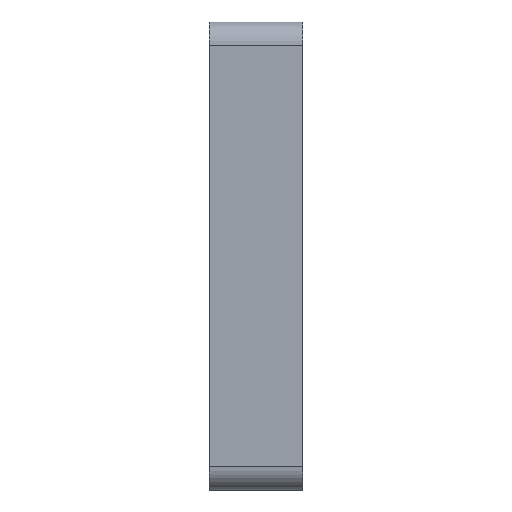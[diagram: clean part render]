
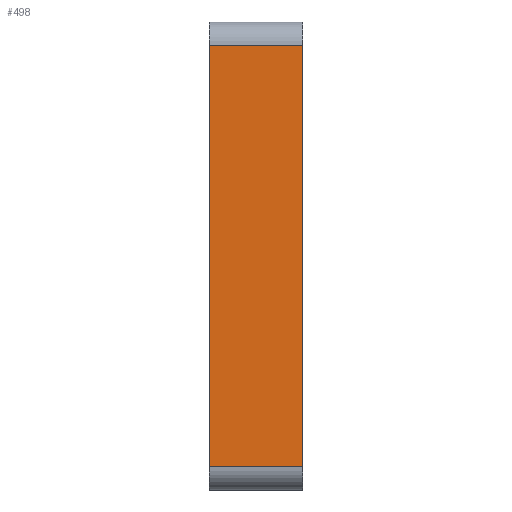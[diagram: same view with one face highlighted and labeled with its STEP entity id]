
A CAD part, left-side view. The second image highlights one B-rep face of the part: STEP entity #498.
In plain terms, the highlighted planar face has unit normal (-1, 0, 0).
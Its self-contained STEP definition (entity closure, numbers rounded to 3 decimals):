
#29=PLANE('',#668);
#54=FACE_OUTER_BOUND('',#81,.T.);
#81=EDGE_LOOP('',(#430,#431,#432,#433));
#105=LINE('',#891,#153);
#129=LINE('',#954,#177);
#130=LINE('',#957,#178);
#131=LINE('',#958,#179);
#153=VECTOR('',#736,10.);
#177=VECTOR('',#806,10.);
#178=VECTOR('',#809,10.);
#179=VECTOR('',#810,10.);
#232=VERTEX_POINT('',#888);
#233=VERTEX_POINT('',#890);
#249=VERTEX_POINT('',#952);
#250=VERTEX_POINT('',#956);
#285=EDGE_CURVE('',#232,#233,#105,.T.);
#317=EDGE_CURVE('',#232,#249,#129,.T.);
#318=EDGE_CURVE('',#250,#249,#130,.T.);
#319=EDGE_CURVE('',#233,#250,#131,.T.);
#430=ORIENTED_EDGE('',*,*,#317,.T.);
#431=ORIENTED_EDGE('',*,*,#318,.F.);
#432=ORIENTED_EDGE('',*,*,#319,.F.);
#433=ORIENTED_EDGE('',*,*,#285,.F.);
#498=ADVANCED_FACE('',(#54),#29,.T.);
#668=AXIS2_PLACEMENT_3D('',#955,#807,#808);
#736=DIRECTION('',(0.,0.,-1.));
#806=DIRECTION('',(0.,1.,0.));
#807=DIRECTION('center_axis',(-1.,0.,0.));
#808=DIRECTION('ref_axis',(0.,0.,1.));
#809=DIRECTION('',(0.,0.,1.));
#810=DIRECTION('',(0.,1.,0.));
#888=CARTESIAN_POINT('',(0.,-5.,47.5));
#890=CARTESIAN_POINT('',(0.,-5.,2.5));
#891=CARTESIAN_POINT('',(0.,-5.,2.5));
#952=CARTESIAN_POINT('',(0.,5.,47.5));
#954=CARTESIAN_POINT('',(0.,0.,47.5));
#955=CARTESIAN_POINT('Origin',(0.,0.,2.5));
#956=CARTESIAN_POINT('',(0.,5.,2.5));
#957=CARTESIAN_POINT('',(0.,5.,2.5));
#958=CARTESIAN_POINT('',(0.,0.,2.5));
